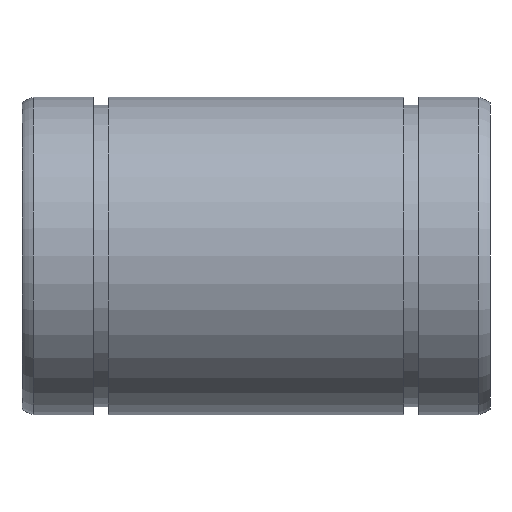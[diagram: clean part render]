
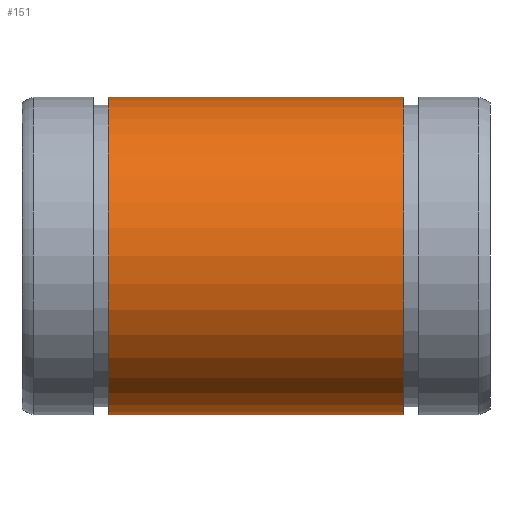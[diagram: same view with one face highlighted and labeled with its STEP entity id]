
A CAD part, front view. The second image highlights one B-rep face of the part: STEP entity #151.
In plain terms, the highlighted cylindrical face has radius 20 mm (diameter 40 mm), a full revolution.
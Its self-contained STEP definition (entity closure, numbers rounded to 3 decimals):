
#117=CARTESIAN_POINT('',(48.15,0.0,20.));
#118=VERTEX_POINT('',#117);
#119=CARTESIAN_POINT('',(48.15,0.0,0.));
#120=DIRECTION('',(-1.0,0.0,0.0));
#121=DIRECTION('',(0.0,0.0,1.0));
#122=AXIS2_PLACEMENT_3D('',#119,#120,#121);
#123=CIRCLE('',#122,20.);
#124=EDGE_CURVE('',#118,#118,#123,.T.);
#132=CARTESIAN_POINT('',(29.5,0.0,0.));
#133=DIRECTION('',(-1.0,0.0,0.0));
#134=DIRECTION('',(0.0,0.0,1.0));
#135=AXIS2_PLACEMENT_3D('',#132,#133,#134);
#136=CYLINDRICAL_SURFACE('',#135,20.);
#137=CARTESIAN_POINT('',(10.85,0.0,20.));
#138=VERTEX_POINT('',#137);
#139=CARTESIAN_POINT('',(10.85,0.0,0.));
#140=DIRECTION('',(-1.0,0.0,0.0));
#141=DIRECTION('',(0.0,0.0,1.0));
#142=AXIS2_PLACEMENT_3D('',#139,#140,#141);
#143=CIRCLE('',#142,20.);
#144=EDGE_CURVE('',#138,#138,#143,.T.);
#145=ORIENTED_EDGE('',*,*,#144,.F.);
#146=EDGE_LOOP('',(#145));
#147=FACE_OUTER_BOUND('',#146,.T.);
#148=ORIENTED_EDGE('',*,*,#124,.T.);
#149=EDGE_LOOP('',(#148));
#150=FACE_BOUND('',#149,.T.);
#151=ADVANCED_FACE('',(#147,#150),#136,.T.);
